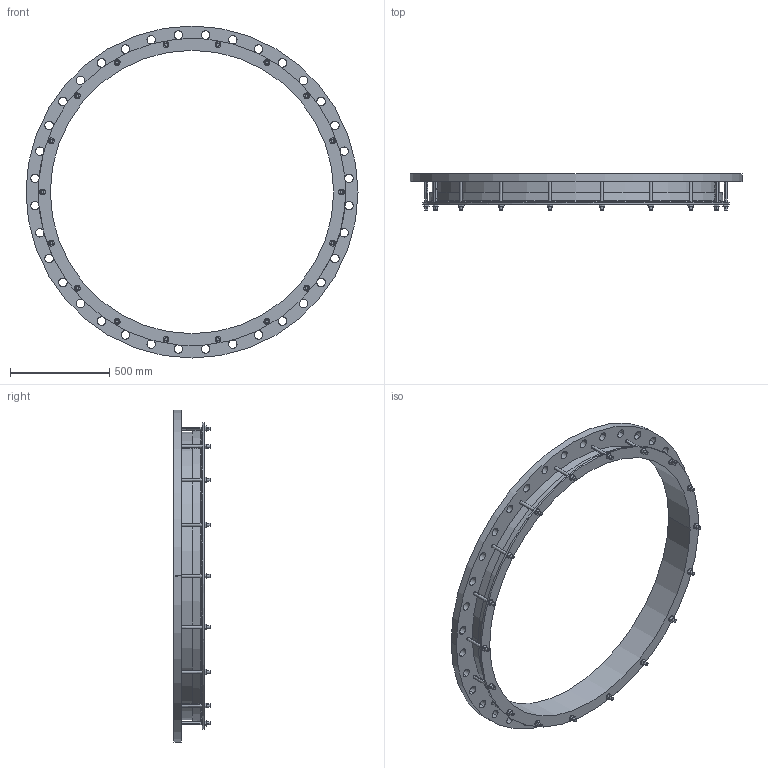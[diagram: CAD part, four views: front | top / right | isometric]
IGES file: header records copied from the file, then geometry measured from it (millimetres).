
Start section:  PTC IGES file: 1426x1400pn10_9not.igs
Global section: file name: 1426x1400pn10_9not.igs; native system: Creo Parametric by PTC Inc.; preprocessor: 2016130; author: mfairey; organization: Unknown; date: 20190117.142248; units: millimetre
Bounding box: 1675 x 182 x 1675 mm (x, y, z)
Surface area: 3246094.7 mm2 (no closed solid volume)
Topology: 0 solids, 0 shells, 376 faces, 2012 edges, 2012 vertices
Faces by surface type: revolution 210, bspline 166
